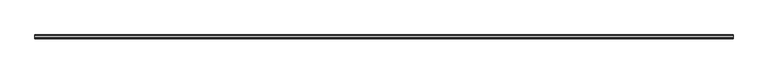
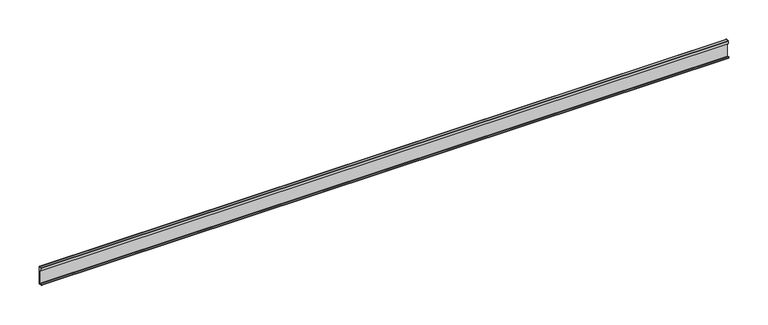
"""IFC4 building model written with IfcOpenShell, lengths in millimetres: proxy geometry, Weiku - Montante - Capa de folha 02.3.02.406 : Weiku - Montante - Capa de folha 02.3.02.406."""

from ifc_helpers import new_model, si_unit, point, frame, frame_2d, origin, place, context, project, spatial, polyline, circle_curve, trimmed, segment, composite_curve, outline, extrude, source, transform, mapped, element, save


def generic_models_c3b72111(model_context):
    return source(origin(), model_context, "Body", "SweptSolid", [
        extrude(outline(composite_curve([segment(polyline([(-4.6421508, 2.2715508), (-3.3866, 1.016), (-1.6933, 1.016), (-1.6933, 25.684), (-3.3063, 25.684), (-3.3063, 22.3396), (-4.28, 22.3396), (-4.28, 26.2)]), True, "CONTINUOUS"), segment(trimmed(circle_curve(frame_2d((-3.78, 26.2)), 0.5), [point((-4.28, 26.2))], [point((-3.78, 26.7))], False, "CARTESIAN"), True, "CONTINUOUS"), segment(polyline([(-3.78, 26.7), (-0.5, 26.7)]), True, "CONTINUOUS"), segment(trimmed(circle_curve(frame_2d((-0.5, 26.2)), 0.5), [point((-0.5, 26.7))], [point((0.0, 26.2))], False, "CARTESIAN"), True, "CONTINUOUS"), segment(polyline([(0.0, 26.2), (0.0, 0.5)]), True, "CONTINUOUS"), segment(trimmed(circle_curve(frame_2d((-0.5, 0.5)), 0.5), [point((0.0, 0.5))], [point((-0.5, 0.0))], False, "CARTESIAN"), True, "CONTINUOUS"), segment(polyline([(-0.5, 0.0), (-4.7576991, 0.0)]), True, "CONTINUOUS"), segment(trimmed(circle_curve(frame_2d((-4.7576991, 0.7)), 0.7), [point((-4.7576991, 0.0))], [point((-5.3603515, 1.056104))], False, "CARTESIAN"), True, "CONTINUOUS"), segment(polyline([(-5.3603515, 1.056104), (-4.6421508, 2.2715508)]), True, "CONTINUOUS")], self_intersect=False)), frame((-506.925, 0.0, 0.0), z_axis=(1.0, 0.0, 0.0), x_axis=(0.0, 1.0, 0.0)), (0.0, 0.0, 1.0), 1013.85),
    ])


if __name__ == "__main__":
    model = new_model("IFC4")
    model_context = context("Model", 3, world=origin())
    ifc_project = project(units=[si_unit("LENGTHUNIT", "METRE", prefix="MILLI")], contexts=[model_context])
    site = spatial("IfcSite", under=ifc_project)
    building = spatial("IfcBuilding", under=site)
    placement = place(None, origin())
    generic_models_shape = generic_models_c3b72111(model_context)
    element("IfcBuildingElementProxy", 1, Name="Weiku - Montante - Capa de folha 02.3.02.406 : Weiku - Montante - Capa de folha 02.3.02.406", ObjectType="Weiku - Montante - Capa de folha 02.3.02.406 : Weiku - Montante - Capa de folha 02.3.02.406", at=placement, inside=building, context=model_context, shape_type="MappedRepresentation", body=[
        mapped(generic_models_shape, transform((0.0, 0.0, 0.0), x_axis=(1.0, 0.0, 0.0), y_axis=(0.0, 1.0, 0.0), z_axis=(0.0, 0.0, 1.0))),
    ])
    save(model, "model.ifc")
